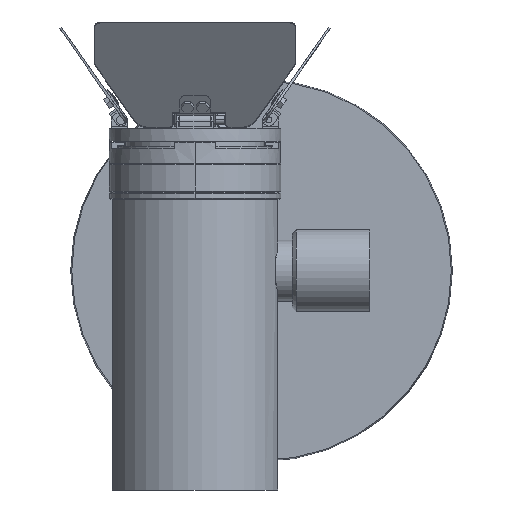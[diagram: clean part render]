
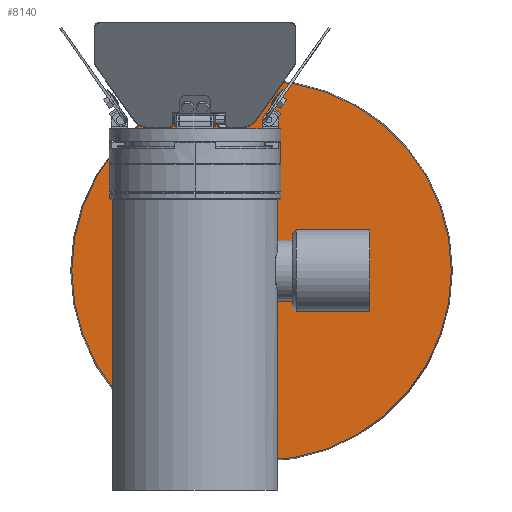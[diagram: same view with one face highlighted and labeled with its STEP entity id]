
A CAD part, front view. The second image highlights one B-rep face of the part: STEP entity #8140.
In plain terms, the highlighted planar face has unit normal (0, -1, 0).
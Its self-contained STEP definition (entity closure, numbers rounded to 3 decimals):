
#825 = VERTEX_POINT ( 'NONE', #7297 ) ;
#1499 = EDGE_LOOP ( 'NONE', ( #9877, #6974 ) ) ;
#1627 = CIRCLE ( 'NONE', #4135, 18. ) ;
#2286 = DIRECTION ( 'NONE',  ( 0., 0., 1. ) ) ;
#2435 = EDGE_CURVE ( 'NONE', #2726, #10142, #11402, .T. ) ;
#2524 = CIRCLE ( 'NONE', #11747, 93. ) ;
#2531 = CARTESIAN_POINT ( 'NONE',  ( 28.3, 124., -18. ) ) ;
#2726 = VERTEX_POINT ( 'NONE', #2531 ) ;
#2840 = CARTESIAN_POINT ( 'NONE',  ( -6.7, 124., 0. ) ) ;
#3067 = EDGE_CURVE ( 'NONE', #825, #11937, #11243, .T. ) ;
#3292 = EDGE_CURVE ( 'NONE', #11937, #825, #2524, .T. ) ;
#3722 = EDGE_CURVE ( 'NONE', #10142, #2726, #1627, .T. ) ;
#4135 = AXIS2_PLACEMENT_3D ( 'NONE', #10678, #14181, #8411 ) ;
#4148 = CARTESIAN_POINT ( 'NONE',  ( -6.7, 124., 0. ) ) ;
#5297 = DIRECTION ( 'NONE',  ( 0., 1., 0. ) ) ;
#5439 = EDGE_LOOP ( 'NONE', ( #11478, #13364 ) ) ;
#6239 = DIRECTION ( 'NONE',  ( 0., 0., 1. ) ) ;
#6403 = DIRECTION ( 'NONE',  ( 0., 0., 1. ) ) ;
#6974 = ORIENTED_EDGE ( 'NONE', *, *, #2435, .T. ) ;
#7297 = CARTESIAN_POINT ( 'NONE',  ( -6.7, 124., -93. ) ) ;
#7339 = FACE_BOUND ( 'NONE', #1499, .T. ) ;
#7846 = AXIS2_PLACEMENT_3D ( 'NONE', #13732, #9105, #2286 ) ;
#8140 = ADVANCED_FACE ( 'NONE', ( #7339, #12977 ), #9209, .F. ) ;
#8411 = DIRECTION ( 'NONE',  ( 0., 0., 1. ) ) ;
#8668 = DIRECTION ( 'NONE',  ( 0., 0., 1. ) ) ;
#8848 = CARTESIAN_POINT ( 'NONE',  ( -6.7, 124., 93. ) ) ;
#9105 = DIRECTION ( 'NONE',  ( 0., 1., 0. ) ) ;
#9209 = PLANE ( 'NONE',  #7846 ) ;
#9877 = ORIENTED_EDGE ( 'NONE', *, *, #3722, .T. ) ;
#10142 = VERTEX_POINT ( 'NONE', #12830 ) ;
#10678 = CARTESIAN_POINT ( 'NONE',  ( 28.3, 124., 0. ) ) ;
#10936 = CARTESIAN_POINT ( 'NONE',  ( 28.3, 124., 0. ) ) ;
#11243 = CIRCLE ( 'NONE', #12488, 93. ) ;
#11402 = CIRCLE ( 'NONE', #13140, 18. ) ;
#11478 = ORIENTED_EDGE ( 'NONE', *, *, #3292, .F. ) ;
#11747 = AXIS2_PLACEMENT_3D ( 'NONE', #2840, #14195, #6239 ) ;
#11937 = VERTEX_POINT ( 'NONE', #8848 ) ;
#12488 = AXIS2_PLACEMENT_3D ( 'NONE', #4148, #5297, #6403 ) ;
#12830 = CARTESIAN_POINT ( 'NONE',  ( 28.3, 124., 18. ) ) ;
#12977 = FACE_OUTER_BOUND ( 'NONE', #5439, .T. ) ;
#13140 = AXIS2_PLACEMENT_3D ( 'NONE', #10936, #13335, #8668 ) ;
#13335 = DIRECTION ( 'NONE',  ( 0., 1., 0. ) ) ;
#13364 = ORIENTED_EDGE ( 'NONE', *, *, #3067, .F. ) ;
#13732 = CARTESIAN_POINT ( 'NONE',  ( -6.7, 124., 0. ) ) ;
#14181 = DIRECTION ( 'NONE',  ( 0., 1., 0. ) ) ;
#14195 = DIRECTION ( 'NONE',  ( 0., 1., 0. ) ) ;
